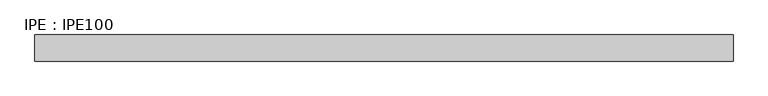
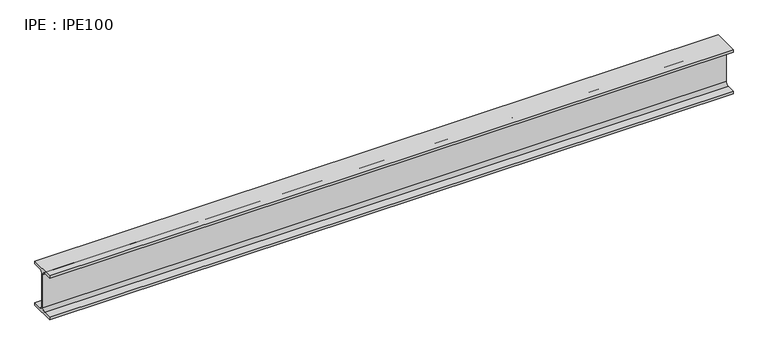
"""IFC4 building model written with IfcOpenShell, lengths in millimetres: beam geometry, IPE : IPE100."""

from ifc_helpers import new_model, si_unit, point, frame, frame_2d, origin, place, context, project, spatial, polyline, circle_curve, trimmed, segment, composite_curve, outline, extrude, source, transform, mapped, element, save


def ipe_ipe100_d39633d5(model_context):
    return source(origin(), model_context, "Body", "SweptSolid", [
        extrude(outline(composite_curve([segment(polyline([(27.5, -44.3), (27.5, -50.0), (-27.5, -50.0), (-27.5, -44.3), (-9.05, -44.3)]), True, "CONTINUOUS"), segment(trimmed(circle_curve(frame_2d((-9.05, -37.3)), 7.0), [point((-9.05, -44.3))], [point((-2.05, -37.3))], True, "CARTESIAN"), True, "CONTINUOUS"), segment(polyline([(-2.05, -37.3), (-2.05, 37.3)]), True, "CONTINUOUS"), segment(trimmed(circle_curve(frame_2d((-9.05, 37.3)), 7.0), [point((-2.05, 37.3))], [point((-9.05, 44.3))], True, "CARTESIAN"), True, "CONTINUOUS"), segment(polyline([(-9.05, 44.3), (-27.5, 44.3), (-27.5, 50.0), (27.5, 50.0), (27.5, 44.3), (9.05, 44.3)]), True, "CONTINUOUS"), segment(trimmed(circle_curve(frame_2d((9.05, 37.3)), 7.0), [point((9.05, 44.3))], [point((2.05, 37.3))], True, "CARTESIAN"), True, "CONTINUOUS"), segment(polyline([(2.05, 37.3), (2.05, -37.3)]), True, "CONTINUOUS"), segment(trimmed(circle_curve(frame_2d((9.05, -37.3)), 7.0), [point((2.05, -37.3))], [point((9.05, -44.3))], True, "CARTESIAN"), True, "CONTINUOUS"), segment(polyline([(9.05, -44.3), (27.5, -44.3)]), True, "CONTINUOUS")], self_intersect=False)), frame((-734.4, 0.0, 0.0), z_axis=(1.0, 0.0, 0.0), x_axis=(0.0, 1.0, 0.0)), (0.0, 0.0, 1.0), 1468.8),
    ])


if __name__ == "__main__":
    model = new_model("IFC4")
    model_context = context("Model", 3, world=origin())
    ifc_project = project(units=[si_unit("LENGTHUNIT", "METRE", prefix="MILLI")], contexts=[model_context])
    site = spatial("IfcSite", under=ifc_project)
    building = spatial("IfcBuilding", under=site)
    placement = place(None, origin())
    ipe_ipe100_shape = ipe_ipe100_d39633d5(model_context)
    element("IfcBeam", 1, ObjectType="IPE : IPE100", at=placement, inside=building, context=model_context, shape_type="MappedRepresentation", body=[
        mapped(ipe_ipe100_shape, transform((0.0, 0.0, 0.0), x_axis=(1.0, 0.0, 0.0), y_axis=(0.0, 1.0, 0.0), z_axis=(0.0, 0.0, 1.0))),
    ])
    save(model, "model.ifc")
